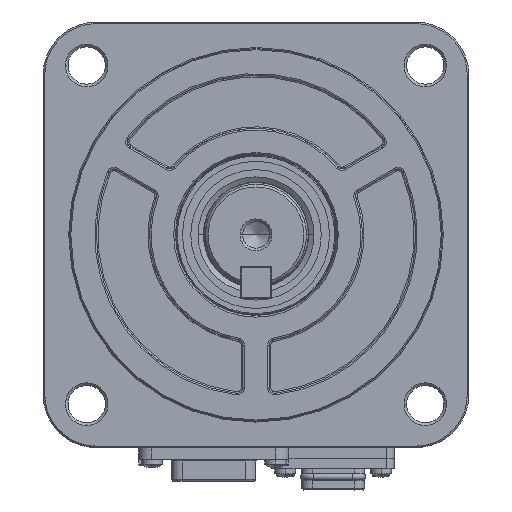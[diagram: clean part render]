
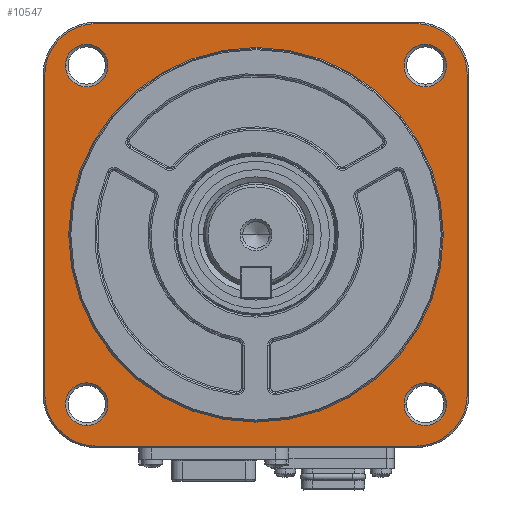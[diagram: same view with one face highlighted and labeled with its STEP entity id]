
A CAD part, left-side view. The second image highlights one B-rep face of the part: STEP entity #10547.
In plain terms, the highlighted planar face has unit normal (-1, 0, 0).
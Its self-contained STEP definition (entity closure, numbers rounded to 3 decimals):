
#1483=CARTESIAN_POINT('',(-1.5,-30.,-30.));
#1484=DIRECTION('',(1.,0.,0.));
#1485=DIRECTION('',(0.,-1.,0.));
#1486=AXIS2_PLACEMENT_3D('',#1483,#1484,#1485);
#1488=DIRECTION('',(0.,1.,0.));
#1489=VECTOR('',#1488,60.);
#1490=CARTESIAN_POINT('',(-1.5,-30.,
-39.7));
#1491=LINE('',#1490,#1489);
#1492=CARTESIAN_POINT('',(-1.5,30.,-30.));
#1493=DIRECTION('',(1.,0.,0.));
#1494=DIRECTION('',(0.,0.,-1.));
#1495=AXIS2_PLACEMENT_3D('',#1492,#1493,#1494);
#1497=DIRECTION('',(0.,0.,1.));
#1498=VECTOR('',#1497,60.);
#1499=CARTESIAN_POINT('',(-1.5,39.7,
-30.));
#1500=LINE('',#1499,#1498);
#1501=CARTESIAN_POINT('',(-1.5,30.,30.));
#1502=DIRECTION('',(1.,0.,0.));
#1503=DIRECTION('',(0.,1.,0.));
#1504=AXIS2_PLACEMENT_3D('',#1501,#1502,#1503);
#1506=DIRECTION('',(0.,-1.,0.));
#1507=VECTOR('',#1506,60.);
#1508=CARTESIAN_POINT('',(-1.5,30.,39.7));
#1509=LINE('',#1508,#1507);
#1510=CARTESIAN_POINT('',(-1.5,-30.,30.));
#1511=DIRECTION('',(1.,0.,0.));
#1512=DIRECTION('',(0.,0.,1.));
#1513=AXIS2_PLACEMENT_3D('',#1510,#1511,#1512);
#1515=DIRECTION('',(0.,0.,-1.));
#1516=VECTOR('',#1515,60.);
#1517=CARTESIAN_POINT('',(-1.5,-39.7,
30.));
#1518=LINE('',#1517,#1516);
#1519=CARTESIAN_POINT('',(-1.5,31.82,-31.82));
#1520=DIRECTION('',(-1.,0.,0.));
#1521=DIRECTION('',(0.,0.,1.));
#1522=AXIS2_PLACEMENT_3D('',#1519,#1520,#1521);
#1524=CARTESIAN_POINT('',(-1.5,31.82,-31.82));
#1525=DIRECTION('',(-1.,0.,0.));
#1526=DIRECTION('',(0.,0.,-1.));
#1527=AXIS2_PLACEMENT_3D('',#1524,#1525,#1526);
#1529=CARTESIAN_POINT('',(-1.5,-31.82,31.82));
#1530=DIRECTION('',(-1.,0.,0.));
#1531=DIRECTION('',(0.,0.,1.));
#1532=AXIS2_PLACEMENT_3D('',#1529,#1530,#1531);
#1534=CARTESIAN_POINT('',(-1.5,-31.82,31.82));
#1535=DIRECTION('',(-1.,0.,0.));
#1536=DIRECTION('',(0.,0.,-1.));
#1537=AXIS2_PLACEMENT_3D('',#1534,#1535,#1536);
#1539=CARTESIAN_POINT('',(-1.5,-31.82,-31.82));
#1540=DIRECTION('',(-1.,0.,0.));
#1541=DIRECTION('',(0.,1.,0.));
#1542=AXIS2_PLACEMENT_3D('',#1539,#1540,#1541);
#1544=CARTESIAN_POINT('',(-1.5,-31.82,-31.82));
#1545=DIRECTION('',(-1.,0.,0.));
#1546=DIRECTION('',(0.,0.,-1.));
#1547=AXIS2_PLACEMENT_3D('',#1544,#1545,#1546);
#1549=CARTESIAN_POINT('',(-1.5,-31.82,-31.82));
#1550=DIRECTION('',(-1.,0.,0.));
#1551=DIRECTION('',(0.,-1.,0.));
#1552=AXIS2_PLACEMENT_3D('',#1549,#1550,#1551);
#1554=CARTESIAN_POINT('',(-1.5,-31.82,-31.82));
#1555=DIRECTION('',(-1.,0.,0.));
#1556=DIRECTION('',(0.,0.,1.));
#1557=AXIS2_PLACEMENT_3D('',#1554,#1555,#1556);
#1559=CARTESIAN_POINT('',(-1.5,0.,0.));
#1560=DIRECTION('',(-1.,0.,0.));
#1561=DIRECTION('',(0.,-1.,0.));
#1562=AXIS2_PLACEMENT_3D('',#1559,#1560,#1561);
#1564=CARTESIAN_POINT('',(-1.5,0.,0.));
#1565=DIRECTION('',(-1.,0.,0.));
#1566=DIRECTION('',(0.,0.,1.));
#1567=AXIS2_PLACEMENT_3D('',#1564,#1565,#1566);
#1569=CARTESIAN_POINT('',(-1.5,0.,0.));
#1570=DIRECTION('',(-1.,0.,0.));
#1571=DIRECTION('',(0.,1.,0.));
#1572=AXIS2_PLACEMENT_3D('',#1569,#1570,#1571);
#1574=CARTESIAN_POINT('',(-1.5,0.,0.));
#1575=DIRECTION('',(-1.,0.,0.));
#1576=DIRECTION('',(0.,0.,-1.));
#1577=AXIS2_PLACEMENT_3D('',#1574,#1575,#1576);
#1579=CARTESIAN_POINT('',(-1.5,31.82,31.82));
#1580=DIRECTION('',(-1.,0.,0.));
#1581=DIRECTION('',(0.,1.,0.));
#1582=AXIS2_PLACEMENT_3D('',#1579,#1580,#1581);
#1584=CARTESIAN_POINT('',(-1.5,31.82,31.82));
#1585=DIRECTION('',(-1.,0.,0.));
#1586=DIRECTION('',(0.,0.,-1.));
#1587=AXIS2_PLACEMENT_3D('',#1584,#1585,#1586);
#1589=CARTESIAN_POINT('',(-1.5,31.82,31.82));
#1590=DIRECTION('',(-1.,0.,0.));
#1591=DIRECTION('',(0.,-1.,0.));
#1592=AXIS2_PLACEMENT_3D('',#1589,#1590,#1591);
#1594=CARTESIAN_POINT('',(-1.5,31.82,31.82));
#1595=DIRECTION('',(-1.,0.,0.));
#1596=DIRECTION('',(0.,0.,1.));
#1597=AXIS2_PLACEMENT_3D('',#1594,#1595,#1596);
#5198=CARTESIAN_POINT('',(-1.5,30.,39.7));
#5199=CARTESIAN_POINT('',(-1.5,-30.,
39.7));
#5200=VERTEX_POINT('',#5198);
#5201=VERTEX_POINT('',#5199);
#5202=CARTESIAN_POINT('',(-1.5,-39.7,-30.));
#5203=CARTESIAN_POINT('',(-1.5,-30.,-39.7));
#5204=VERTEX_POINT('',#5202);
#5205=VERTEX_POINT('',#5203);
#5206=CARTESIAN_POINT('',(-1.5,30.,
-39.7));
#5207=VERTEX_POINT('',#5206);
#5208=CARTESIAN_POINT('',(-1.5,39.7,-30.));
#5209=VERTEX_POINT('',#5208);
#5210=CARTESIAN_POINT('',(-1.5,39.7,30.));
#5211=VERTEX_POINT('',#5210);
#5212=CARTESIAN_POINT('',(-1.5,-39.7,30.));
#5213=VERTEX_POINT('',#5212);
#5214=CARTESIAN_POINT('',(-1.5,31.82,-27.82));
#5215=CARTESIAN_POINT('',(-1.5,31.82,-35.82));
#5216=VERTEX_POINT('',#5214);
#5217=VERTEX_POINT('',#5215);
#5218=CARTESIAN_POINT('',(-1.5,-31.82,35.82));
#5219=CARTESIAN_POINT('',(-1.5,-31.82,27.82));
#5220=VERTEX_POINT('',#5218);
#5221=VERTEX_POINT('',#5219);
#5222=CARTESIAN_POINT('',(-1.5,-31.82,-35.82));
#5223=CARTESIAN_POINT('',(-1.5,-35.82,-31.82));
#5224=VERTEX_POINT('',#5222);
#5225=VERTEX_POINT('',#5223);
#5226=CARTESIAN_POINT('',(-1.5,-27.82,-31.82));
#5227=VERTEX_POINT('',#5226);
#5228=CARTESIAN_POINT('',(-1.5,-31.82,-27.82));
#5229=VERTEX_POINT('',#5228);
#5230=CARTESIAN_POINT('',(-1.5,0.,35.2));
#5231=CARTESIAN_POINT('',(-1.5,35.2,0.));
#5232=VERTEX_POINT('',#5230);
#5233=VERTEX_POINT('',#5231);
#5234=CARTESIAN_POINT('',(-1.5,-35.2,0.));
#5235=VERTEX_POINT('',#5234);
#5236=CARTESIAN_POINT('',(-1.5,0.,-35.2));
#5237=VERTEX_POINT('',#5236);
#5238=CARTESIAN_POINT('',(-1.5,31.82,27.82));
#5239=CARTESIAN_POINT('',(-1.5,27.82,31.82));
#5240=VERTEX_POINT('',#5238);
#5241=VERTEX_POINT('',#5239);
#5242=CARTESIAN_POINT('',(-1.5,35.82,31.82));
#5243=VERTEX_POINT('',#5242);
#5244=CARTESIAN_POINT('',(-1.5,31.82,35.82));
#5245=VERTEX_POINT('',#5244);
#10483=CARTESIAN_POINT('',(-1.5,0.,0.));
#10484=DIRECTION('',(1.,0.,0.));
#10485=DIRECTION('',(0.,-1.,0.));
#10486=AXIS2_PLACEMENT_3D('',#10483,#10484,#10485);
#10487=PLANE('',#10486);
#10489=ORIENTED_EDGE('',*,*,#10488,.T.);
#10490=ORIENTED_EDGE('',*,*,#10473,.T.);
#10492=ORIENTED_EDGE('',*,*,#10491,.T.);
#10494=ORIENTED_EDGE('',*,*,#10493,.T.);
#10496=ORIENTED_EDGE('',*,*,#10495,.T.);
#10498=ORIENTED_EDGE('',*,*,#10497,.T.);
#10500=ORIENTED_EDGE('',*,*,#10499,.T.);
#10502=ORIENTED_EDGE('',*,*,#10501,.T.);
#10503=EDGE_LOOP('',(#10489,#10490,#10492,#10494,#10496,#10498,#10500,#10502));
#10504=FACE_OUTER_BOUND('',#10503,.F.);
#10506=ORIENTED_EDGE('',*,*,#10505,.T.);
#10508=ORIENTED_EDGE('',*,*,#10507,.T.);
#10509=EDGE_LOOP('',(#10506,#10508));
#10510=FACE_BOUND('',#10509,.F.);
#10512=ORIENTED_EDGE('',*,*,#10511,.T.);
#10514=ORIENTED_EDGE('',*,*,#10513,.T.);
#10515=EDGE_LOOP('',(#10512,#10514));
#10516=FACE_BOUND('',#10515,.F.);
#10518=ORIENTED_EDGE('',*,*,#10517,.T.);
#10520=ORIENTED_EDGE('',*,*,#10519,.T.);
#10522=ORIENTED_EDGE('',*,*,#10521,.T.);
#10524=ORIENTED_EDGE('',*,*,#10523,.T.);
#10525=EDGE_LOOP('',(#10518,#10520,#10522,#10524));
#10526=FACE_BOUND('',#10525,.F.);
#10528=ORIENTED_EDGE('',*,*,#10527,.T.);
#10530=ORIENTED_EDGE('',*,*,#10529,.T.);
#10532=ORIENTED_EDGE('',*,*,#10531,.T.);
#10534=ORIENTED_EDGE('',*,*,#10533,.T.);
#10535=EDGE_LOOP('',(#10528,#10530,#10532,#10534));
#10536=FACE_BOUND('',#10535,.F.);
#10538=ORIENTED_EDGE('',*,*,#10537,.T.);
#10540=ORIENTED_EDGE('',*,*,#10539,.T.);
#10542=ORIENTED_EDGE('',*,*,#10541,.T.);
#10544=ORIENTED_EDGE('',*,*,#10543,.T.);
#10545=EDGE_LOOP('',(#10538,#10540,#10542,#10544));
#10546=FACE_BOUND('',#10545,.F.);
#10547=ADVANCED_FACE('',(#10504,#10510,#10516,#10526,#10536,#10546),#10487,.F.);
#1487=CIRCLE('',#1486,9.7);
#1496=CIRCLE('',#1495,9.7);
#1505=CIRCLE('',#1504,9.7);
#1514=CIRCLE('',#1513,9.7);
#1523=CIRCLE('',#1522,4.);
#1528=CIRCLE('',#1527,4.);
#1533=CIRCLE('',#1532,4.);
#1538=CIRCLE('',#1537,4.);
#1543=CIRCLE('',#1542,4.);
#1548=CIRCLE('',#1547,4.);
#1553=CIRCLE('',#1552,4.);
#1558=CIRCLE('',#1557,4.);
#1563=CIRCLE('',#1562,35.2);
#1568=CIRCLE('',#1567,35.2);
#1573=CIRCLE('',#1572,35.2);
#1578=CIRCLE('',#1577,35.2);
#1583=CIRCLE('',#1582,4.);
#1588=CIRCLE('',#1587,4.);
#1593=CIRCLE('',#1592,4.);
#1598=CIRCLE('',#1597,4.);
#10473=EDGE_CURVE('',#5205,#5207,#1491,.T.);
#10488=EDGE_CURVE('',#5204,#5205,#1487,.T.);
#10491=EDGE_CURVE('',#5207,#5209,#1496,.T.);
#10493=EDGE_CURVE('',#5209,#5211,#1500,.T.);
#10495=EDGE_CURVE('',#5211,#5200,#1505,.T.);
#10497=EDGE_CURVE('',#5200,#5201,#1509,.T.);
#10499=EDGE_CURVE('',#5201,#5213,#1514,.T.);
#10501=EDGE_CURVE('',#5213,#5204,#1518,.T.);
#10505=EDGE_CURVE('',#5216,#5217,#1523,.T.);
#10507=EDGE_CURVE('',#5217,#5216,#1528,.T.);
#10511=EDGE_CURVE('',#5220,#5221,#1533,.T.);
#10513=EDGE_CURVE('',#5221,#5220,#1538,.T.);
#10517=EDGE_CURVE('',#5227,#5224,#1543,.T.);
#10519=EDGE_CURVE('',#5224,#5225,#1548,.T.);
#10521=EDGE_CURVE('',#5225,#5229,#1553,.T.);
#10523=EDGE_CURVE('',#5229,#5227,#1558,.T.);
#10527=EDGE_CURVE('',#5235,#5232,#1563,.T.);
#10529=EDGE_CURVE('',#5232,#5233,#1568,.T.);
#10531=EDGE_CURVE('',#5233,#5237,#1573,.T.);
#10533=EDGE_CURVE('',#5237,#5235,#1578,.T.);
#10537=EDGE_CURVE('',#5243,#5240,#1583,.T.);
#10539=EDGE_CURVE('',#5240,#5241,#1588,.T.);
#10541=EDGE_CURVE('',#5241,#5245,#1593,.T.);
#10543=EDGE_CURVE('',#5245,#5243,#1598,.T.);
